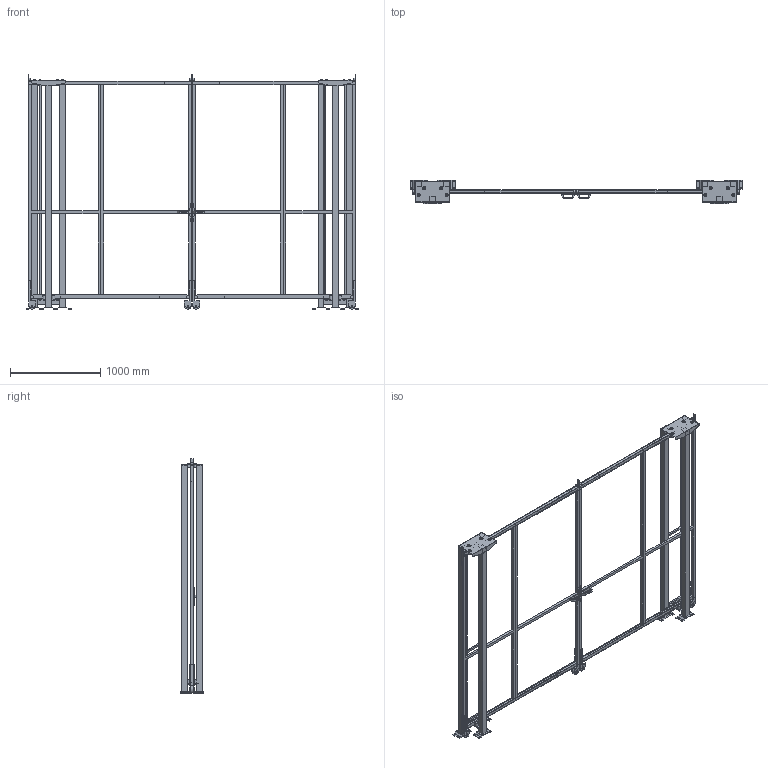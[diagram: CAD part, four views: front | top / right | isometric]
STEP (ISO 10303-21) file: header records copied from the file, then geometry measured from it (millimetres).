
FILE_DESCRIPTION(/* description */ (''),/* implementation_level */ '2;1');
FILE_NAME(/* name */ 'C:\SafeGuarding\ELABORATI\KLADKA2KR_2025-03-25-12-41-01.stp',/* time_stamp */ '2025-03-25T12:41:04+01:00',/* author */ ('admin'),/* organization */ (''),/* preprocessor_version */ 'ST-DEVELOPER v18.1',/* originating_system */ 'AutoCAD Mechanical',/* authorisation */ '');
FILE_SCHEMA (('AUTOMOTIVE_DESIGN { 1 0 10303 214 3 1 1 }'));
Length unit declared in the file: millimetre
Products named in the file (5): Product; VFPA.REPE30.08002400; VFPA.REPE30.10002400; VFPA.REPE2002502400; P_VFMA.V260SDU.2520
Assembly tree (12 placements, depth 2):
  Product
    VFPA.REPE30.08002400  x2
    VFPA.REPE30.10002400  x2
    P_VFMA.V260SDU.2520  x6
    VFPA.REPE2002502400  x2
Bounding box: 3671.38 x 264 x 2590.02 mm (x, y, z)
Volume: 91468353.5 mm3; surface area: 12463247.5 mm2
Topology: 84 solids, 106 shells, 850 faces, 2797 edges, 2765 vertices
Faces by surface type: plane 774, cylinder 76
Full cylindrical faces by diameter (mm): 9 x8, 11 x24, 13 x8, 14 x4, 30 x12, 36 x16, 80 x4
Entity records: 22807 total; most frequent: CARTESIAN_POINT 4825, DIRECTION 3464, ORIENTED_EDGE 3228, EDGE_CURVE 1712, LINE 1628, VECTOR 1628, VERTEX_POINT 1220, AXIS2_PLACEMENT_3D 918
